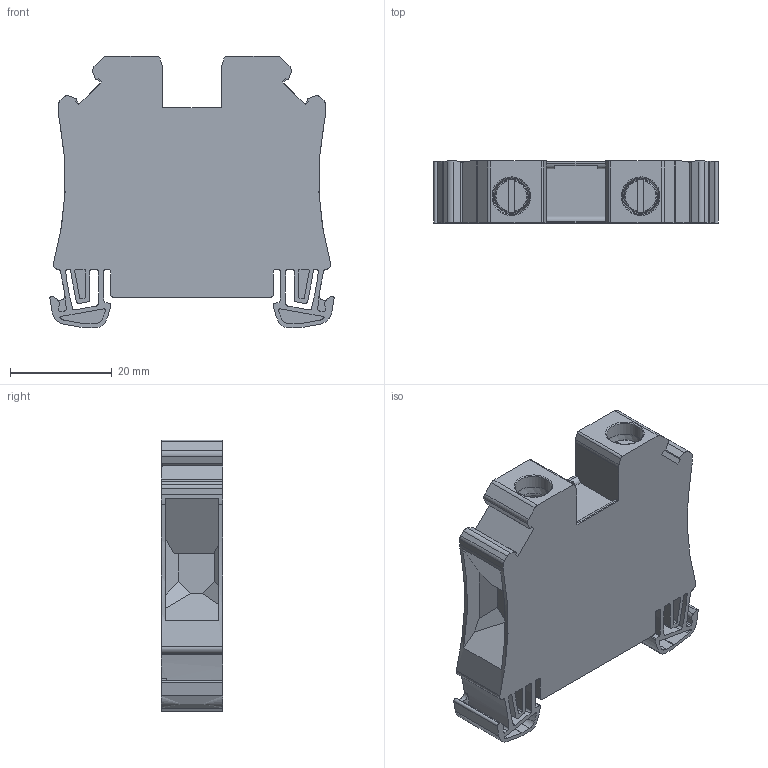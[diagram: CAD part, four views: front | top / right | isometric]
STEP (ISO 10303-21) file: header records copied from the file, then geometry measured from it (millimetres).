
FILE_DESCRIPTION( ('This file contains a STEP AP42 implementation' ,'as created by ZW3D STEP Interface translator.') ,'2;1' );
FILE_NAME( 'RUT16傷赽耀倰.stp' ,'23 4 7.175434', (''), ('ZWCAD Software Co.'), 'Version 1.0', 'ZW3D to STEP translator', '' );
FILE_SCHEMA(('AUTOMOTIVE_DESIGN { 1 0 10303 214 1 1 1 1 }'));
Length unit declared in the file: millimetre
Products named in the file (2): 0; RUT16
Bounding box: 56 x 12.15 x 53.5 mm (x, y, z)
Volume: 24507.2 mm3; surface area: 10870.5 mm2
Topology: 1 solids, 1 shells, 314 faces, 894 edges, 596 vertices
Faces by surface type: plane 157, cylinder 123, bspline 22, torus 8, cone 4
Full cylindrical faces by diameter (mm): 3.9 x1, 4.5 x2, 4.9 x2, 5.2 x2, 7.2 x4
Entity records: 11978 total; most frequent: CARTESIAN_POINT 3409, ORIENTED_EDGE 1788, DIRECTION 1688, EDGE_CURVE 894, AXIS2_PLACEMENT_3D 596, VERTEX_POINT 596, VECTOR 496, LINE 496
